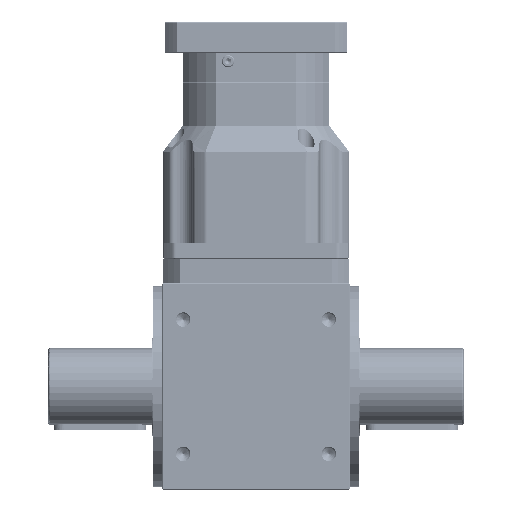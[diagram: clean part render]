
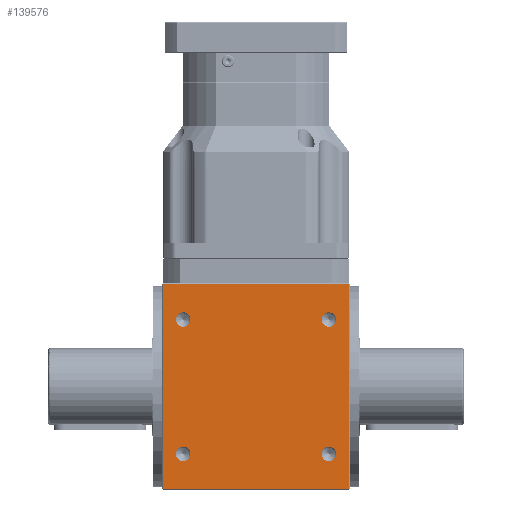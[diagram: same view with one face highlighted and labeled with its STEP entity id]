
A CAD part, front view. The second image highlights one B-rep face of the part: STEP entity #139576.
In plain terms, the highlighted planar face has unit normal (0, -1, 0) as drawn and (0, 0, -1) by its records, which use the part's own axes.
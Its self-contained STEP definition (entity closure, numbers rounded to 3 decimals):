
#943 = EDGE_CURVE ( 'NONE', #62642, #98440, #78320, .T. ) ;
#1357 = EDGE_CURVE ( 'NONE', #50455, #69082, #82551, .T. ) ;
#1745 = CARTESIAN_POINT ( 'NONE',  ( 70.5, -65., -100. ) ) ;
#2508 = EDGE_CURVE ( 'NONE', #58643, #43936, #126500, .T. ) ;
#6839 = VECTOR ( 'NONE', #112742, 1000. ) ;
#8616 = CARTESIAN_POINT ( 'NONE',  ( 91., 100., -100. ) ) ;
#9947 = EDGE_CURVE ( 'NONE', #52985, #32783, #56468, .T. ) ;
#10798 = AXIS2_PLACEMENT_3D ( 'NONE', #82809, #14417, #94240 ) ;
#12418 = CIRCLE ( 'NONE', #136860, 7. ) ;
#13351 = DIRECTION ( 'NONE',  ( 0., 1., 0. ) ) ;
#14417 = DIRECTION ( 'NONE',  ( 0., 0., -1. ) ) ;
#15160 = DIRECTION ( 'NONE',  ( 0., 1., 0. ) ) ;
#15343 = DIRECTION ( 'NONE',  ( 0., 0., -1. ) ) ;
#15640 = CARTESIAN_POINT ( 'NONE',  ( 70.5, 65., -100. ) ) ;
#15771 = AXIS2_PLACEMENT_3D ( 'NONE', #1745, #81743, #13351 ) ;
#16510 = VECTOR ( 'NONE', #108967, 1000. ) ;
#17074 = CARTESIAN_POINT ( 'NONE',  ( -77.5, -65., -100. ) ) ;
#17860 = ORIENTED_EDGE ( 'NONE', *, *, #1357, .F. ) ;
#20249 = DIRECTION ( 'NONE',  ( 0., -1., 0. ) ) ;
#25900 = CARTESIAN_POINT ( 'NONE',  ( 90., -99., -100. ) ) ;
#28310 = DIRECTION ( 'NONE',  ( 0., 0., -1. ) ) ;
#28649 = CIRCLE ( 'NONE', #120367, 7. ) ;
#29307 = CARTESIAN_POINT ( 'NONE',  ( -90., 100., -100. ) ) ;
#29889 = VECTOR ( 'NONE', #116418, 1000. ) ;
#31585 = ORIENTED_EDGE ( 'NONE', *, *, #112401, .F. ) ;
#32783 = VERTEX_POINT ( 'NONE', #54217 ) ;
#34306 = ORIENTED_EDGE ( 'NONE', *, *, #2508, .F. ) ;
#34425 = EDGE_CURVE ( 'NONE', #52985, #78048, #107482, .T. ) ;
#36184 = VERTEX_POINT ( 'NONE', #51332 ) ;
#36892 = CIRCLE ( 'NONE', #125395, 7. ) ;
#38471 = AXIS2_PLACEMENT_3D ( 'NONE', #15640, #15343, #15160 ) ;
#40005 = CARTESIAN_POINT ( 'NONE',  ( -70.5, 58., -100. ) ) ;
#43936 = VERTEX_POINT ( 'NONE', #111749 ) ;
#46077 = DIRECTION ( 'NONE',  ( 0., 0., -1. ) ) ;
#49587 = EDGE_LOOP ( 'NONE', ( #81986, #87502 ) ) ;
#50455 = VERTEX_POINT ( 'NONE', #17074 ) ;
#51332 = CARTESIAN_POINT ( 'NONE',  ( 70.5, -72., -100. ) ) ;
#52985 = VERTEX_POINT ( 'NONE', #80176 ) ;
#53745 = PLANE ( 'NONE',  #111228 ) ;
#54086 = FACE_OUTER_BOUND ( 'NONE', #143772, .T. ) ;
#54147 = VERTEX_POINT ( 'NONE', #25900 ) ;
#54217 = CARTESIAN_POINT ( 'NONE',  ( 90., 99., -100. ) ) ;
#56468 = LINE ( 'NONE', #129667, #65275 ) ;
#57005 = AXIS2_PLACEMENT_3D ( 'NONE', #123547, #123375, #123188 ) ;
#57643 = FACE_BOUND ( 'NONE', #49587, .T. ) ;
#58643 = VERTEX_POINT ( 'NONE', #76284 ) ;
#59239 = DIRECTION ( 'NONE',  ( 0., 0., -1. ) ) ;
#60242 = CARTESIAN_POINT ( 'NONE',  ( -70.5, 72., -100. ) ) ;
#60258 = LINE ( 'NONE', #127358, #29889 ) ;
#62211 = AXIS2_PLACEMENT_3D ( 'NONE', #113549, #95623, #95809 ) ;
#62642 = VERTEX_POINT ( 'NONE', #60242 ) ;
#64288 = ORIENTED_EDGE ( 'NONE', *, *, #116378, .F. ) ;
#65275 = VECTOR ( 'NONE', #129186, 1000. ) ;
#65294 = ORIENTED_EDGE ( 'NONE', *, *, #9947, .T. ) ;
#65478 = ORIENTED_EDGE ( 'NONE', *, *, #78696, .F. ) ;
#69082 = VERTEX_POINT ( 'NONE', #96900 ) ;
#70644 = EDGE_LOOP ( 'NONE', ( #84718, #105385 ) ) ;
#74540 = EDGE_CURVE ( 'NONE', #114096, #36184, #133119, .T. ) ;
#76284 = CARTESIAN_POINT ( 'NONE',  ( 70.5, 58., -100. ) ) ;
#78048 = VERTEX_POINT ( 'NONE', #87299 ) ;
#78320 = CIRCLE ( 'NONE', #62211, 7. ) ;
#78696 = EDGE_CURVE ( 'NONE', #69082, #50455, #36892, .T. ) ;
#80176 = CARTESIAN_POINT ( 'NONE',  ( -90., 99., -100. ) ) ;
#81743 = DIRECTION ( 'NONE',  ( 0., 0., -1. ) ) ;
#81986 = ORIENTED_EDGE ( 'NONE', *, *, #74540, .F. ) ;
#82551 = CIRCLE ( 'NONE', #57005, 7. ) ;
#82809 = CARTESIAN_POINT ( 'NONE',  ( 70.5, 65., -100. ) ) ;
#83275 = ORIENTED_EDGE ( 'NONE', *, *, #122899, .F. ) ;
#84364 = FACE_BOUND ( 'NONE', #70644, .T. ) ;
#84718 = ORIENTED_EDGE ( 'NONE', *, *, #943, .F. ) ;
#87299 = CARTESIAN_POINT ( 'NONE',  ( -90., -99., -100. ) ) ;
#87502 = ORIENTED_EDGE ( 'NONE', *, *, #125681, .F. ) ;
#88555 = DIRECTION ( 'NONE',  ( 0., 0., 1. ) ) ;
#94240 = DIRECTION ( 'NONE',  ( 0., 1., 0. ) ) ;
#95623 = DIRECTION ( 'NONE',  ( 0., 0., -1. ) ) ;
#95809 = DIRECTION ( 'NONE',  ( 0., 1., 0. ) ) ;
#96569 = CARTESIAN_POINT ( 'NONE',  ( 70.5, -65., -100. ) ) ;
#96900 = CARTESIAN_POINT ( 'NONE',  ( -63.5, -65., -100. ) ) ;
#98440 = VERTEX_POINT ( 'NONE', #40005 ) ;
#100809 = CARTESIAN_POINT ( 'NONE',  ( 90., 100., -100. ) ) ;
#102078 = ORIENTED_EDGE ( 'NONE', *, *, #34425, .F. ) ;
#102756 = EDGE_LOOP ( 'NONE', ( #17860, #65478 ) ) ;
#105385 = ORIENTED_EDGE ( 'NONE', *, *, #131995, .F. ) ;
#107482 = LINE ( 'NONE', #29307, #16510 ) ;
#107980 = DIRECTION ( 'NONE',  ( 0., 1., 0. ) ) ;
#108967 = DIRECTION ( 'NONE',  ( 0., -1., 0. ) ) ;
#111228 = AXIS2_PLACEMENT_3D ( 'NONE', #8616, #88555, #20249 ) ;
#111749 = CARTESIAN_POINT ( 'NONE',  ( 70.5, 72., -100. ) ) ;
#112401 = EDGE_CURVE ( 'NONE', #43936, #58643, #137394, .T. ) ;
#112742 = DIRECTION ( 'NONE',  ( 0., 1., 0. ) ) ;
#113468 = CARTESIAN_POINT ( 'NONE',  ( 70.5, -58., -100. ) ) ;
#113549 = CARTESIAN_POINT ( 'NONE',  ( -70.5, 65., -100. ) ) ;
#114096 = VERTEX_POINT ( 'NONE', #113468 ) ;
#114187 = CARTESIAN_POINT ( 'NONE',  ( -70.5, 65., -100. ) ) ;
#114550 = FACE_BOUND ( 'NONE', #138675, .T. ) ;
#116378 = EDGE_CURVE ( 'NONE', #78048, #54147, #60258, .T. ) ;
#116418 = DIRECTION ( 'NONE',  ( 1., 0., 0. ) ) ;
#120367 = AXIS2_PLACEMENT_3D ( 'NONE', #114187, #46077, #125649 ) ;
#122899 = EDGE_CURVE ( 'NONE', #54147, #32783, #128151, .T. ) ;
#123188 = DIRECTION ( 'NONE',  ( -1., 0., 0. ) ) ;
#123375 = DIRECTION ( 'NONE',  ( 0., 0., -1. ) ) ;
#123547 = CARTESIAN_POINT ( 'NONE',  ( -70.5, -65., -100. ) ) ;
#125395 = AXIS2_PLACEMENT_3D ( 'NONE', #127326, #59239, #138715 ) ;
#125649 = DIRECTION ( 'NONE',  ( 0., 1., 0. ) ) ;
#125681 = EDGE_CURVE ( 'NONE', #36184, #114096, #12418, .T. ) ;
#126500 = CIRCLE ( 'NONE', #38471, 7. ) ;
#127326 = CARTESIAN_POINT ( 'NONE',  ( -70.5, -65., -100. ) ) ;
#127358 = CARTESIAN_POINT ( 'NONE',  ( 91., -99., -100. ) ) ;
#128151 = LINE ( 'NONE', #100809, #6839 ) ;
#129186 = DIRECTION ( 'NONE',  ( 1., 0., 0. ) ) ;
#129667 = CARTESIAN_POINT ( 'NONE',  ( 91., 99., -100. ) ) ;
#131995 = EDGE_CURVE ( 'NONE', #98440, #62642, #28649, .T. ) ;
#133119 = CIRCLE ( 'NONE', #15771, 7. ) ;
#136860 = AXIS2_PLACEMENT_3D ( 'NONE', #96569, #28310, #107980 ) ;
#137394 = CIRCLE ( 'NONE', #10798, 7. ) ;
#138675 = EDGE_LOOP ( 'NONE', ( #31585, #34306 ) ) ;
#138715 = DIRECTION ( 'NONE',  ( -1., 0., 0. ) ) ;
#139576 = ADVANCED_FACE ( 'NONE', ( #144721, #84364, #114550, #57643, #54086 ), #53745, .F. ) ;
#143772 = EDGE_LOOP ( 'NONE', ( #102078, #65294, #83275, #64288 ) ) ;
#144721 = FACE_BOUND ( 'NONE', #102756, .T. ) ;
